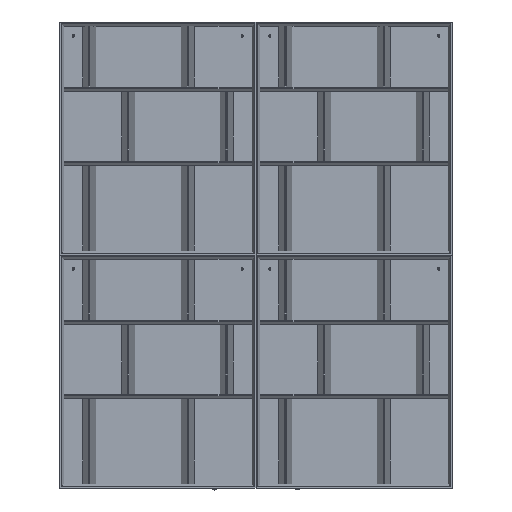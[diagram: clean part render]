
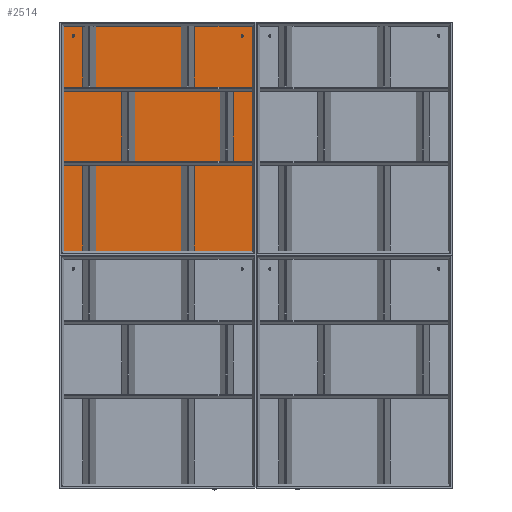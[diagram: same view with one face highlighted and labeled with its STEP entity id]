
A CAD part, top view. The second image highlights one B-rep face of the part: STEP entity #2514.
In plain terms, the highlighted planar face has unit normal (0, 0, 1).
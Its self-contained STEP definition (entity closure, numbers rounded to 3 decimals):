
#382 = CIRCLE ( 'NONE', #5941, 5. ) ;
#442 = ORIENTED_EDGE ( 'NONE', *, *, #5454, .F. ) ;
#630 = DIRECTION ( 'NONE',  ( -1., 0., 0. ) ) ;
#723 = CARTESIAN_POINT ( 'NONE',  ( 1302.107, 934., -161. ) ) ;
#850 = LINE ( 'NONE', #7619, #9049 ) ;
#890 = CARTESIAN_POINT ( 'NONE',  ( -344., 894., -161. ) ) ;
#1011 = CARTESIAN_POINT ( 'NONE',  ( -344., 894., -161. ) ) ;
#1215 = VERTEX_POINT ( 'NONE', #9381 ) ;
#1358 = VECTOR ( 'NONE', #9784, 1000. ) ;
#1471 = EDGE_CURVE ( 'NONE', #6010, #4167, #850, .T. ) ;
#1533 = ORIENTED_EDGE ( 'NONE', *, *, #1939, .T. ) ;
#1608 = ORIENTED_EDGE ( 'NONE', *, *, #6398, .T. ) ;
#1709 = CIRCLE ( 'NONE', #2982, 5. ) ;
#1939 = EDGE_CURVE ( 'NONE', #2621, #6010, #3366, .T. ) ;
#2004 = VERTEX_POINT ( 'NONE', #7115 ) ;
#2145 = DIRECTION ( 'NONE',  ( 0., 0., 1. ) ) ;
#2181 = CARTESIAN_POINT ( 'NONE',  ( 339., 894., -161. ) ) ;
#2246 = DIRECTION ( 'NONE',  ( 0., -1., 0. ) ) ;
#2248 = EDGE_CURVE ( 'NONE', #2004, #6264, #9502, .T. ) ;
#2274 = CIRCLE ( 'NONE', #7833, 5. ) ;
#2303 = VERTEX_POINT ( 'NONE', #2181 ) ;
#2514 = ADVANCED_FACE ( 'NONE', ( #3400, #7248, #9789 ), #7198, .F. ) ;
#2621 = VERTEX_POINT ( 'NONE', #6892 ) ;
#2651 = CARTESIAN_POINT ( 'NONE',  ( 384., 934., -161. ) ) ;
#2693 = ORIENTED_EDGE ( 'NONE', *, *, #1471, .T. ) ;
#2982 = AXIS2_PLACEMENT_3D ( 'NONE', #1011, #9384, #4734 ) ;
#2988 = EDGE_LOOP ( 'NONE', ( #1533, #2693, #5600, #1608 ) ) ;
#3039 = CARTESIAN_POINT ( 'NONE',  ( 349., 894., -161. ) ) ;
#3366 = LINE ( 'NONE', #9460, #4095 ) ;
#3400 = FACE_OUTER_BOUND ( 'NONE', #2988, .T. ) ;
#4095 = VECTOR ( 'NONE', #5657, 1000. ) ;
#4098 = CARTESIAN_POINT ( 'NONE',  ( -384., 16., -161. ) ) ;
#4167 = VERTEX_POINT ( 'NONE', #4098 ) ;
#4212 = VERTEX_POINT ( 'NONE', #3039 ) ;
#4301 = EDGE_CURVE ( 'NONE', #4212, #2303, #382, .T. ) ;
#4480 = ORIENTED_EDGE ( 'NONE', *, *, #4301, .F. ) ;
#4514 = DIRECTION ( 'NONE',  ( 0., 0., 1. ) ) ;
#4713 = VECTOR ( 'NONE', #5392, 1000. ) ;
#4734 = DIRECTION ( 'NONE',  ( 1., 0., 0. ) ) ;
#5095 = DIRECTION ( 'NONE',  ( 1., 0., 0. ) ) ;
#5186 = DIRECTION ( 'NONE',  ( 0., 0., -1. ) ) ;
#5217 = AXIS2_PLACEMENT_3D ( 'NONE', #890, #4514, #6705 ) ;
#5392 = DIRECTION ( 'NONE',  ( -1., 0., 0. ) ) ;
#5443 = EDGE_LOOP ( 'NONE', ( #5678, #9710 ) ) ;
#5454 = EDGE_CURVE ( 'NONE', #2303, #4212, #2274, .T. ) ;
#5600 = ORIENTED_EDGE ( 'NONE', *, *, #9293, .F. ) ;
#5657 = DIRECTION ( 'NONE',  ( -1., 0., 0. ) ) ;
#5678 = ORIENTED_EDGE ( 'NONE', *, *, #9450, .F. ) ;
#5685 = CARTESIAN_POINT ( 'NONE',  ( -339., 894., -161. ) ) ;
#5941 = AXIS2_PLACEMENT_3D ( 'NONE', #7993, #7395, #5095 ) ;
#6010 = VERTEX_POINT ( 'NONE', #6599 ) ;
#6264 = VERTEX_POINT ( 'NONE', #5685 ) ;
#6398 = EDGE_CURVE ( 'NONE', #1215, #2621, #9483, .T. ) ;
#6599 = CARTESIAN_POINT ( 'NONE',  ( -384., 934., -161. ) ) ;
#6705 = DIRECTION ( 'NONE',  ( 1., 0., 0. ) ) ;
#6833 = CARTESIAN_POINT ( 'NONE',  ( 344., 894., -161. ) ) ;
#6892 = CARTESIAN_POINT ( 'NONE',  ( 384., 934., -161. ) ) ;
#7115 = CARTESIAN_POINT ( 'NONE',  ( -349., 894., -161. ) ) ;
#7198 = PLANE ( 'NONE',  #7591 ) ;
#7248 = FACE_BOUND ( 'NONE', #8875, .T. ) ;
#7395 = DIRECTION ( 'NONE',  ( 0., 0., 1. ) ) ;
#7591 = AXIS2_PLACEMENT_3D ( 'NONE', #723, #5186, #630 ) ;
#7619 = CARTESIAN_POINT ( 'NONE',  ( -384., 934., -161. ) ) ;
#7833 = AXIS2_PLACEMENT_3D ( 'NONE', #6833, #2145, #8286 ) ;
#7993 = CARTESIAN_POINT ( 'NONE',  ( 344., 894., -161. ) ) ;
#8286 = DIRECTION ( 'NONE',  ( 1., 0., 0. ) ) ;
#8339 = CARTESIAN_POINT ( 'NONE',  ( 1302.107, 16., -161. ) ) ;
#8875 = EDGE_LOOP ( 'NONE', ( #4480, #442 ) ) ;
#8998 = LINE ( 'NONE', #8339, #4713 ) ;
#9049 = VECTOR ( 'NONE', #2246, 1000. ) ;
#9293 = EDGE_CURVE ( 'NONE', #1215, #4167, #8998, .T. ) ;
#9381 = CARTESIAN_POINT ( 'NONE',  ( 384., 16., -161. ) ) ;
#9384 = DIRECTION ( 'NONE',  ( 0., 0., 1. ) ) ;
#9450 = EDGE_CURVE ( 'NONE', #6264, #2004, #1709, .T. ) ;
#9460 = CARTESIAN_POINT ( 'NONE',  ( 1302.107, 934., -161. ) ) ;
#9483 = LINE ( 'NONE', #2651, #1358 ) ;
#9502 = CIRCLE ( 'NONE', #5217, 5. ) ;
#9710 = ORIENTED_EDGE ( 'NONE', *, *, #2248, .F. ) ;
#9784 = DIRECTION ( 'NONE',  ( 0., 1., 0. ) ) ;
#9789 = FACE_BOUND ( 'NONE', #5443, .T. ) ;
